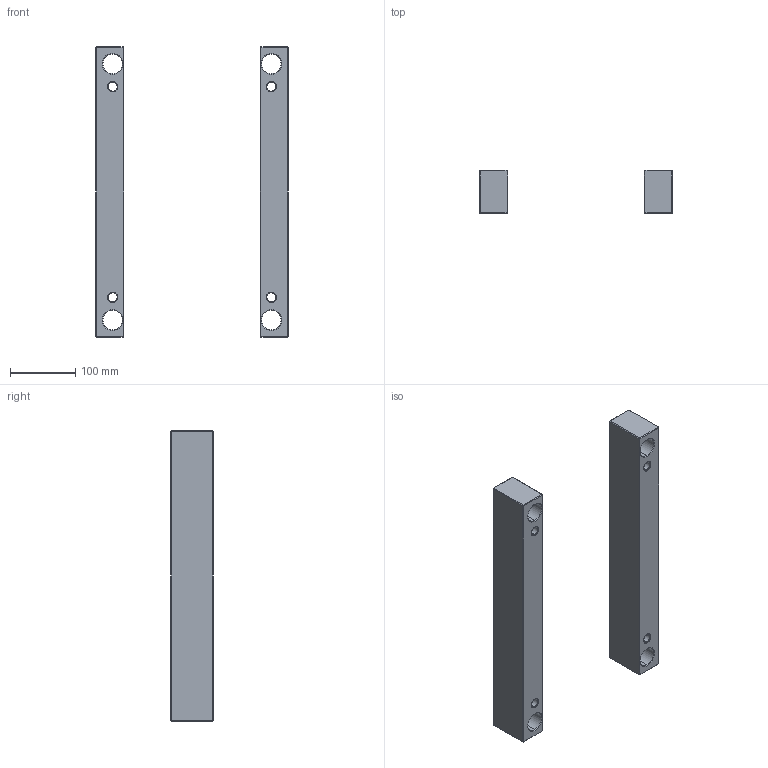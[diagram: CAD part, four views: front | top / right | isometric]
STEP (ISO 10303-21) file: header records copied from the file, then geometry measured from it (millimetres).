
FILE_DESCRIPTION (( 'STEP AP214' ), '1' );
FILE_NAME ('ESP-EU-296X446x66.STEP', '2020-04-15T17:23:10', ( 'August' ), ( '' ), 'SwSTEP 2.0', 'SolidWorks 2018', '' );
FILE_SCHEMA (( 'AUTOMOTIVE_DESIGN' ));
Length unit declared in the file: millimetre
Products named in the file (1): ESP-EU-296X446x66
Bounding box: 296 x 66 x 446 mm (x, y, z)
Volume: 2301466.7 mm3; surface area: 232180.5 mm2
Topology: 2 solids, 2 shells, 100 faces, 224 edges, 120 vertices
Faces by surface type: plane 52, cone 32, cylinder 16
Entity records: 2751 total; most frequent: DIRECTION 498, ORIENTED_EDGE 448, CARTESIAN_POINT 445, EDGE_CURVE 224, AXIS2_PLACEMENT_3D 173, VECTOR 152, LINE 152, VERTEX_POINT 120
